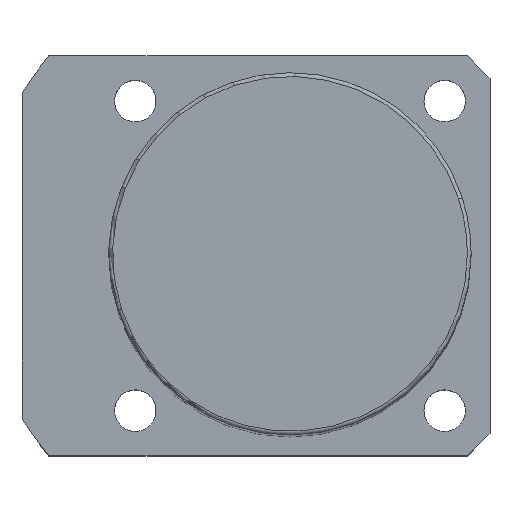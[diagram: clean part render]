
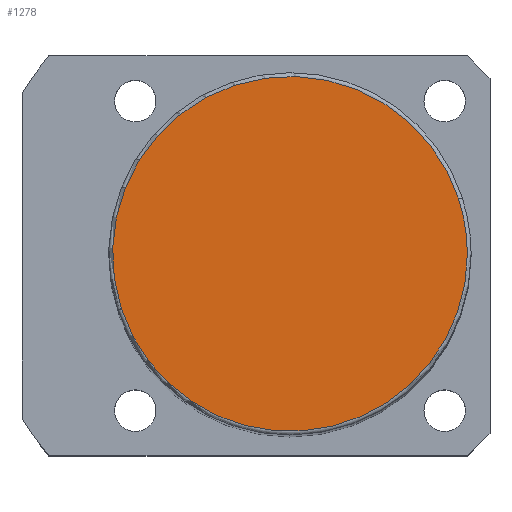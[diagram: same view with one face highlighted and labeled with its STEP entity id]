
A CAD part, top view. The second image highlights one B-rep face of the part: STEP entity #1278.
In plain terms, the highlighted planar face has unit normal (0, 0, 1).
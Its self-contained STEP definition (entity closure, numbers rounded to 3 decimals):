
#1244=CARTESIAN_POINT('',(23.5,0.0,164.0));
#1245=VERTEX_POINT('',#1244);
#1246=CARTESIAN_POINT('',(22.35,7.262,164.0));
#1247=VERTEX_POINT('',#1246);
#1248=CARTESIAN_POINT('',(0.0,0.0,164.0));
#1249=DIRECTION('',(0.0,0.0,1.0));
#1250=DIRECTION('',(1.0,0.0,0.0));
#1251=AXIS2_PLACEMENT_3D('',#1248,#1249,#1250);
#1252=CIRCLE('',#1251,23.5);
#1253=EDGE_CURVE('no 1802',#1245,#1247,#1252,.T.);
#1254=ORIENTED_EDGE('',*,*,#1253,.T.);
#1255=CARTESIAN_POINT('',(-22.35,-7.262,164.0));
#1256=VERTEX_POINT('',#1255);
#1257=CARTESIAN_POINT('',(0.0,0.0,164.0));
#1258=DIRECTION('',(0.0,0.0,1.0));
#1259=DIRECTION('',(1.0,0.0,0.0));
#1260=AXIS2_PLACEMENT_3D('',#1257,#1258,#1259);
#1261=CIRCLE('',#1260,23.5);
#1262=EDGE_CURVE('no 1808',#1247,#1256,#1261,.T.);
#1263=ORIENTED_EDGE('',*,*,#1262,.T.);
#1264=CARTESIAN_POINT('',(0.0,0.0,164.0));
#1265=DIRECTION('',(0.0,0.0,1.0));
#1266=DIRECTION('',(1.0,0.0,0.0));
#1267=AXIS2_PLACEMENT_3D('',#1264,#1265,#1266);
#1268=CIRCLE('',#1267,23.5);
#1269=EDGE_CURVE('no 1812',#1256,#1245,#1268,.T.);
#1270=ORIENTED_EDGE('',*,*,#1269,.T.);
#1271=EDGE_LOOP('',(#1254,#1263,#1270));
#1272=FACE_OUTER_BOUND('',#1271,.T.);
#1273=CARTESIAN_POINT('',(0.0,0.0,164.0));
#1274=DIRECTION('',(0.0,0.0,1.0));
#1275=DIRECTION('',(1.0,0.0,0.0));
#1276=AXIS2_PLACEMENT_3D('',#1273,#1274,#1275);
#1277=PLANE('',#1276);
#1278=ADVANCED_FACE('no 1793',(#1272),#1277,.T.);
